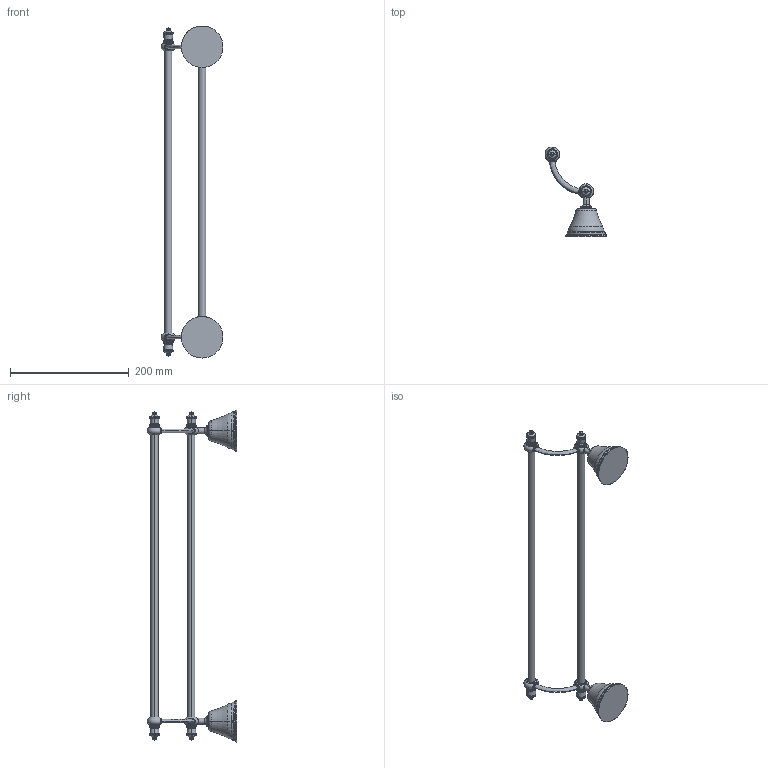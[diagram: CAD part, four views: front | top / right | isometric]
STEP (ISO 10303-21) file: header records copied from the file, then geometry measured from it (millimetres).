
FILE_DESCRIPTION((''),'2;1');
FILE_NAME('37313_SUB01_SW0001','2026-10-01T14:28:16',('simi1'),(''),'CREO PARAMETRIC BY PTC INC, 2022244','CREO PARAMETRIC BY PTC INC, 2022244','');
FILE_SCHEMA(('CONFIG_CONTROL_DESIGN'));
Length unit declared in the file: millimetre
Products named in the file (1): 37313_SUB01_SW0001
Bounding box: 104.23 x 150.48 x 558.5 mm (x, y, z)
Surface area: 82401.9 mm2 (no closed solid volume)
Topology: 0 solids, 42 shells, 328 faces, 786 edges, 456 vertices
Faces by surface type: torus 166, cylinder 58, bspline 48, sphere 16, plane 14, cone 12, extrusion 10, revolution 4
Entity records: 15293 total; most frequent: CARTESIAN_POINT 7978, DIRECTION 1694, ORIENTED_EDGE 1384, AXIS2_PLACEMENT_3D 804, EDGE_CURVE 778, CIRCLE 528, VERTEX_POINT 456, EDGE_LOOP 328
